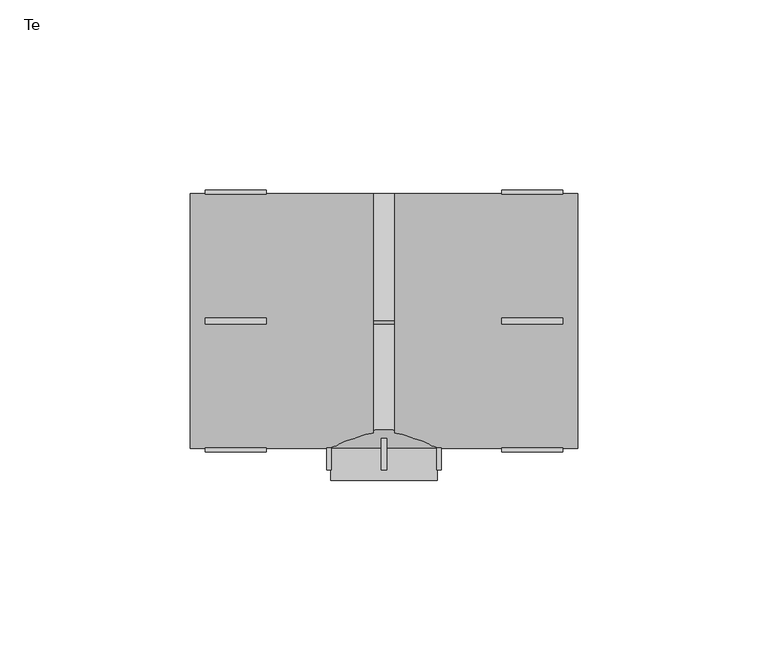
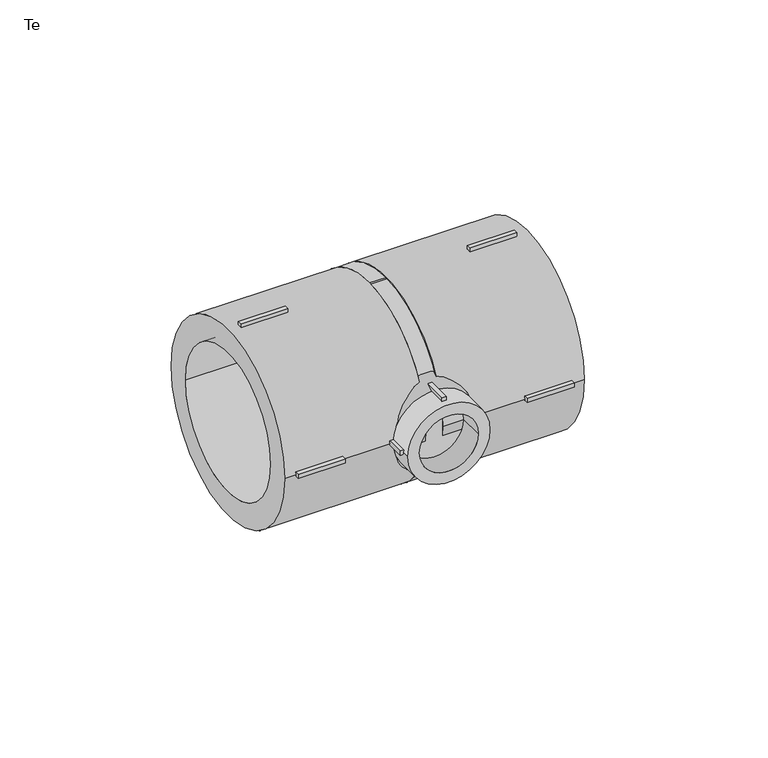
"""IFC4 building model written with IfcOpenShell, lengths in millimetres: pipe fitting geometry, EGB_VASEN_ PPR_Te WXR300_Te reducida WXR310 : Te."""

from ifc_helpers import new_model, si_unit, point, frame, origin, origin_2d, place, context, project, spatial, polyline, circle_curve, trimmed, segment, composite_curve, outline, extrude, source, transform, mapped, element, save
from ifc_brep_helpers import plane_surface, revolved_surface, advanced_brep


def te_cd1d8330(model_context):
    return source(origin(), model_context, "Body", "SolidModel", [
        extrude(outline(polyline([(-0.75, -28.0), (0.75, -28.0), (0.75, -39.2), (-0.75, -39.2), (-0.75, -28.0)])), frame((0.0, 0.0, 13.0), z_axis=(0.0, 0.0, 1.0), x_axis=(1.0, 0.0, 0.0)), (0.0, 0.0, 1.0), 2.0),
        extrude(outline(polyline([(-0.75, -28.0), (0.75, -28.0), (0.75, -39.2), (-0.75, -39.2), (-0.75, -28.0)])), frame((0.0, 0.0, -15.0), z_axis=(0.0, 0.0, 1.0), x_axis=(1.0, 0.0, 0.0)), (0.0, 0.0, 1.0), 2.0),
        extrude(outline(polyline([(13.0, -28.0), (15.0, -28.0), (15.0, -39.2), (13.0, -39.2), (13.0, -28.0)])), frame((0.0, 0.0, -0.75), z_axis=(0.0, 0.0, 1.0), x_axis=(1.0, 0.0, 0.0)), (0.0, 0.0, 1.0), 1.5),
        extrude(outline(polyline([(-15.0, -28.0), (-13.0, -28.0), (-13.0, -39.2), (-15.0, -39.2), (-15.0, -28.0)])), frame((0.0, 0.0, -0.75), z_axis=(0.0, 0.0, 1.0), x_axis=(1.0, 0.0, 0.0)), (0.0, 0.0, 1.0), 1.5),
        extrude(outline(polyline([(31.0, -0.75), (31.0, 0.75), (47.0, 0.75), (47.0, -0.75), (31.0, -0.75)])), frame((0.0, 0.0, 32.5), z_axis=(0.0, 0.0, 1.0), x_axis=(1.0, 0.0, 0.0)), (0.0, 0.0, 1.0), 2.0),
        extrude(outline(polyline([(31.0, -0.75), (31.0, 0.75), (47.0, 0.75), (47.0, -0.75), (31.0, -0.75)])), frame((0.0, 0.0, -34.5), z_axis=(0.0, 0.0, 1.0), x_axis=(1.0, 0.0, 0.0)), (0.0, 0.0, 1.0), 2.0),
        extrude(outline(polyline([(31.0, 32.5), (31.0, 34.5), (47.0, 34.5), (47.0, 32.5), (31.0, 32.5)])), frame((0.0, 0.0, -0.75), z_axis=(0.0, 0.0, 1.0), x_axis=(1.0, 0.0, 0.0)), (0.0, 0.0, 1.0), 1.5),
        extrude(outline(polyline([(31.0, -34.5), (31.0, -32.5), (47.0, -32.5), (47.0, -34.5), (31.0, -34.5)])), frame((0.0, 0.0, -0.75), z_axis=(0.0, 0.0, 1.0), x_axis=(1.0, 0.0, 0.0)), (0.0, 0.0, 1.0), 1.5),
        extrude(outline(polyline([(-31.0, 0.75), (-31.0, -0.75), (-47.0, -0.75), (-47.0, 0.75), (-31.0, 0.75)])), frame((0.0, 0.0, 32.5), z_axis=(0.0, 0.0, 1.0), x_axis=(1.0, 0.0, 0.0)), (0.0, 0.0, 1.0), 2.0),
        extrude(outline(polyline([(-31.0, 0.75), (-31.0, -0.75), (-47.0, -0.75), (-47.0, 0.75), (-31.0, 0.75)])), frame((0.0, 0.0, -34.5), z_axis=(0.0, 0.0, 1.0), x_axis=(1.0, 0.0, 0.0)), (0.0, 0.0, 1.0), 2.0),
        extrude(outline(polyline([(-31.0, 34.5), (-31.0, 32.5), (-47.0, 32.5), (-47.0, 34.5), (-31.0, 34.5)])), frame((0.0, 0.0, -0.75), z_axis=(0.0, 0.0, 1.0), x_axis=(1.0, 0.0, 0.0)), (0.0, 0.0, 1.0), 1.5),
        extrude(outline(polyline([(-31.0, -32.5), (-31.0, -34.5), (-47.0, -34.5), (-47.0, -32.5), (-31.0, -32.5)])), frame((0.0, 0.0, -0.75), z_axis=(0.0, 0.0, 1.0), x_axis=(1.0, 0.0, 0.0)), (0.0, 0.0, 1.0), 1.5),
        extrude(outline(composite_curve([segment(trimmed(circle_curve(origin_2d(), 14.0), [point((0.0, 14.0))], [point((0.0, -14.0))], False, "CARTESIAN"), True, "CONTINUOUS"), segment(trimmed(circle_curve(origin_2d(), 14.0), [point((0.0, -14.0))], [point((0.0, 14.0))], False, "CARTESIAN"), True, "CONTINUOUS")], self_intersect=False), holes=[composite_curve([segment(trimmed(circle_curve(origin_2d(), 10.0), [point((0.0, 10.0))], [point((0.0, -10.0))], True, "CARTESIAN"), True, "CONTINUOUS"), segment(trimmed(circle_curve(origin_2d(), 10.0), [point((0.0, -10.0))], [point((0.0, 10.0))], True, "CARTESIAN"), True, "CONTINUOUS")], self_intersect=False)]), frame((0.0, -42.0, 0.0), z_axis=(0.0, 1.0, 0.0), x_axis=(0.0, 0.0, 1.0)), (0.0, 0.0, 1.0), 8.5),
        extrude(outline(composite_curve([segment(trimmed(circle_curve(origin_2d(), 33.5), [point((-33.5, 0.0))], [point((33.5, 0.0))], False, "CARTESIAN"), True, "CONTINUOUS"), segment(trimmed(circle_curve(origin_2d(), 33.5), [point((33.5, 0.0))], [point((-33.5, 0.0))], False, "CARTESIAN"), True, "CONTINUOUS")], self_intersect=False), holes=[composite_curve([segment(trimmed(circle_curve(origin_2d(), 25.0), [point((-25.0, 0.0))], [point((25.0, 0.0))], True, "CARTESIAN"), True, "CONTINUOUS"), segment(trimmed(circle_curve(origin_2d(), 25.0), [point((25.0, 0.0))], [point((-25.0, 0.0))], True, "CARTESIAN"), True, "CONTINUOUS")], self_intersect=False)]), frame((2.88, 0.0, 0.0), z_axis=(1.0, 0.0, 0.0), x_axis=(0.0, 1.0, 0.0)), (0.0, 0.0, 1.0), 48.12),
        extrude(outline(composite_curve([segment(trimmed(circle_curve(origin_2d(), 33.5), [point((-33.5, 0.0))], [point((33.5, 0.0))], False, "CARTESIAN"), True, "CONTINUOUS"), segment(trimmed(circle_curve(origin_2d(), 33.5), [point((33.5, 0.0))], [point((-33.5, 0.0))], False, "CARTESIAN"), True, "CONTINUOUS")], self_intersect=False), holes=[composite_curve([segment(trimmed(circle_curve(origin_2d(), 25.0), [point((-25.0, 0.0))], [point((25.0, 0.0))], True, "CARTESIAN"), True, "CONTINUOUS"), segment(trimmed(circle_curve(origin_2d(), 25.0), [point((25.0, 0.0))], [point((-25.0, 0.0))], True, "CARTESIAN"), True, "CONTINUOUS")], self_intersect=False)]), frame((-51.0, 0.0, 0.0), z_axis=(1.0, 0.0, 0.0), x_axis=(0.0, 1.0, 0.0)), (0.0, 0.0, 1.0), 48.12),
        advanced_brep(
        [(33.5, 0.0, 0.0), (-33.5, 0.0, 0.0), (14.0, -33.5, 0.0), (-14.0, -33.5, 0.0)],
        [
            (0, 1, circle_curve(frame((0.0, 0.0, 0.0), z_axis=(0.0, 1.0, 0.0), x_axis=(1.0, 0.0, 0.0)), 33.5)),
            (1, 0, circle_curve(frame((0.0, 0.0, 0.0), z_axis=(0.0, 1.0, 0.0), x_axis=(-1.0, 0.0, 0.0)), 33.5)),
            (2, 3, circle_curve(frame((0.0, -33.5, 0.0), z_axis=(0.0, -1.0, 0.0), x_axis=(-1.0, 0.0, 0.0)), 14.0)),
            (3, 2, circle_curve(frame((0.0, -33.5, 0.0), z_axis=(0.0, -1.0, 0.0), x_axis=(1.0, 0.0, 0.0)), 14.0)),
            (3, 1),
            (0, 2),
        ],
        [
            plane_surface(frame((0.0, 0.0, 0.0), z_axis=(0.0, 1.0, 0.0), x_axis=(0.0, 0.0, -1.0))),
            plane_surface(frame((0.0, -33.5, 0.0), z_axis=(0.0, -1.0, 0.0), x_axis=(0.0, 0.0, -1.0))),
            revolved_surface(polyline([(-14.000000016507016, -33.5, 0.0), (-33.5, 0.0, 0.0)]), (0.0, -57.5512821, 0.0), (0.0, 1.0, 0.0)),
            revolved_surface(polyline([(14.000000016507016, -33.5, 0.0), (33.5, 0.0, 0.0)]), (0.0, -57.5512821, 0.0), (0.0, 1.0, 0.0)),
        ],
        [
            (0, [[1, 2]]),
            (1, [[3, 4]]),
            (2, [[-4, 5, -1, 6]]),
            (3, [[-3, -6, -2, -5]]),
        ],
    ),
        extrude(outline(composite_curve([segment(trimmed(circle_curve(origin_2d(), 33.5), [point((-33.5, 0.0))], [point((33.5, 0.0))], False, "CARTESIAN"), True, "CONTINUOUS"), segment(trimmed(circle_curve(origin_2d(), 33.5), [point((33.5, 0.0))], [point((-33.5, 0.0))], False, "CARTESIAN"), True, "CONTINUOUS")], self_intersect=False)), frame((-2.88, 0.0, 0.0), z_axis=(1.0, 0.0, 0.0), x_axis=(0.0, 1.0, 0.0)), (0.0, 0.0, 1.0), 5.76),
    ])


if __name__ == "__main__":
    model = new_model("IFC4")
    model_context = context("Model", 3, world=origin())
    ifc_project = project(units=[si_unit("LENGTHUNIT", "METRE", prefix="MILLI")], contexts=[model_context])
    site = spatial("IfcSite", under=ifc_project)
    building = spatial("IfcBuilding", under=site)
    placement = place(None, origin())
    te_shape = te_cd1d8330(model_context)
    element("IfcPipeFitting", 1, ObjectType="EGB_VASEN_ PPR_Te WXR300_Te reducida WXR310 : Te", at=placement, inside=building, context=model_context, shape_type="MappedRepresentation", body=[
        mapped(te_shape, transform((0.0, 0.0, 0.0), x_axis=(1.0, 0.0, 0.0), y_axis=(0.0, 1.0, 0.0), z_axis=(0.0, 0.0, 1.0))),
    ])
    save(model, "model.ifc")
